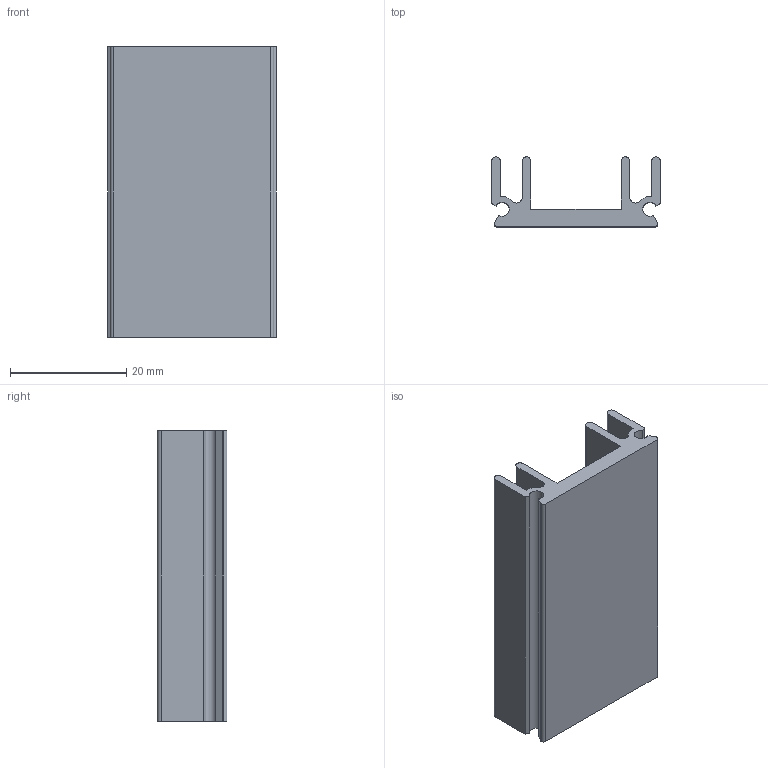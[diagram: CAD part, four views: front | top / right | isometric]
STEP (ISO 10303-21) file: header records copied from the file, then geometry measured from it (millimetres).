
FILE_DESCRIPTION (( 'STEP AP203' ), '1' );
FILE_NAME ('PR 23-50.step', '2002-10-21T08:30:45', ( 'Wolfgang Müller' ), ( 'DPS' ), 'SwSTEP 2.0', 'SolidWorks 2002264', '' );
FILE_SCHEMA (( 'CONFIG_CONTROL_DESIGN' ));
Length unit declared in the file: millimetre
Products named in the file (1): PR 23-50
Bounding box: 29 x 12 x 50 mm (x, y, z)
Volume: 6884.3 mm3; surface area: 7014.6 mm2
Topology: 1 solids, 1 shells, 30 faces, 84 edges, 56 vertices
Faces by surface type: plane 16, cylinder 14
Entity records: 1053 total; most frequent: DIRECTION 174, CARTESIAN_POINT 171, ORIENTED_EDGE 168, EDGE_CURVE 84, AXIS2_PLACEMENT_3D 59, VERTEX_POINT 56, LINE 56, VECTOR 56
